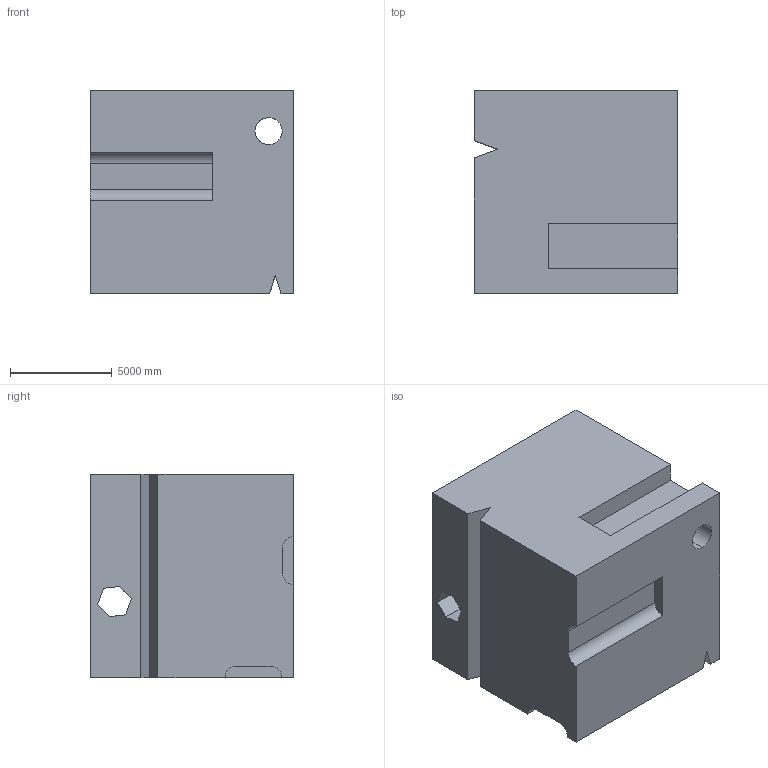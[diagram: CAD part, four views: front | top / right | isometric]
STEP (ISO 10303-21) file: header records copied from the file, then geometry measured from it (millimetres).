
FILE_DESCRIPTION (( 'STEP AP203' ), '1' );
FILE_NAME ('175.STEP', '2022-09-06T15:21:46', ( 'user' ), ( '' ), 'SwSTEP 2.0', 'SolidWorks 2021', '' );
FILE_SCHEMA (( 'CONFIG_CONTROL_DESIGN' ));
Length unit declared in the file: centimetre
Products named in the file (1): 175
Bounding box: 10000 x 10000 x 10000 mm (x, y, z)
Volume: 919194576690.1 mm3; surface area: 773415744.4 mm2
Topology: 1 solids, 1 shells, 45 faces, 130 edges, 86 vertices
Faces by surface type: plane 33, cylinder 12
Entity records: 2311 total; most frequent: CARTESIAN_POINT 1058, ORIENTED_EDGE 260, DIRECTION 224, EDGE_CURVE 130, LINE 92, VECTOR 92, VERTEX_POINT 86, AXIS2_PLACEMENT_3D 66
